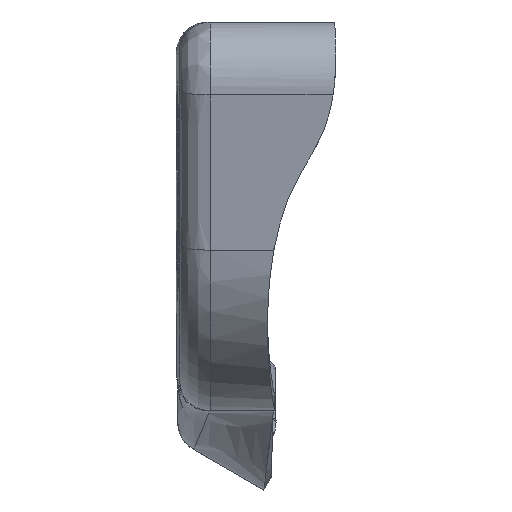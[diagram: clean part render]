
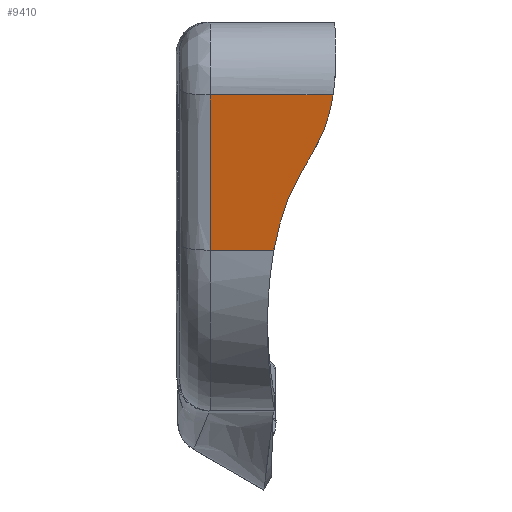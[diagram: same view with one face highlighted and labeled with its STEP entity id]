
A CAD part, left-side view. The second image highlights one B-rep face of the part: STEP entity #9410.
In plain terms, the highlighted free-form (B-spline) face has degree [5, 1] with [6, 2] control points.
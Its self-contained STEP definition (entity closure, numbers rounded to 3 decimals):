
#8377=CARTESIAN_POINT('Vertex',(647.041,-886.412,351.806)) ;
#8477=CARTESIAN_POINT('Vertex',(643.536,-902.227,371.758)) ;
#8714=CARTESIAN_POINT('Vertex',(643.523,-886.415,371.758)) ;
#9018=CARTESIAN_POINT('Vertex',(644.772,-899.808,364.733)) ;
#9029=CARTESIAN_POINT('Control Point',(643.535,-902.227,371.758)) ;
#9030=CARTESIAN_POINT('Control Point',(643.861,-901.966,369.91)) ;
#9031=CARTESIAN_POINT('Control Point',(644.181,-901.47,368.095)) ;
#9032=CARTESIAN_POINT('Control Point',(644.487,-900.744,366.355)) ;
#9033=CARTESIAN_POINT('Control Point',(644.772,-899.808,364.733)) ;
#9095=CARTESIAN_POINT('Vertex',(647.047,-894.593,351.806)) ;
#9099=CARTESIAN_POINT('Control Point',(647.047,-894.593,351.806)) ;
#9100=CARTESIAN_POINT('Control Point',(647.046,-892.956,351.806)) ;
#9101=CARTESIAN_POINT('Control Point',(647.045,-891.32,351.806)) ;
#9102=CARTESIAN_POINT('Control Point',(647.043,-889.684,351.806)) ;
#9103=CARTESIAN_POINT('Control Point',(647.042,-888.048,351.806)) ;
#9104=CARTESIAN_POINT('Control Point',(647.041,-886.412,351.806)) ;
#9169=CARTESIAN_POINT('Control Point',(643.523,-886.415,371.758)) ;
#9170=CARTESIAN_POINT('Control Point',(644.213,-886.414,367.847)) ;
#9171=CARTESIAN_POINT('Control Point',(644.902,-886.414,363.937)) ;
#9172=CARTESIAN_POINT('Control Point',(645.592,-886.413,360.026)) ;
#9173=CARTESIAN_POINT('Control Point',(646.295,-886.413,356.036)) ;
#9174=CARTESIAN_POINT('Control Point',(646.999,-886.412,352.045)) ;
#9175=CARTESIAN_POINT('Control Point',(647.013,-886.412,351.965)) ;
#9176=CARTESIAN_POINT('Control Point',(647.027,-886.412,351.886)) ;
#9177=CARTESIAN_POINT('Control Point',(647.041,-886.412,351.806)) ;
#9211=CARTESIAN_POINT('Control Point',(643.536,-902.227,371.758)) ;
#9212=CARTESIAN_POINT('Control Point',(643.533,-899.064,371.758)) ;
#9213=CARTESIAN_POINT('Control Point',(643.531,-895.902,371.758)) ;
#9214=CARTESIAN_POINT('Control Point',(643.528,-892.74,371.758)) ;
#9215=CARTESIAN_POINT('Control Point',(643.526,-889.577,371.758)) ;
#9216=CARTESIAN_POINT('Control Point',(643.523,-886.415,371.758)) ;
#9363=CARTESIAN_POINT('Vertex',(645.336,-897.961,361.529)) ;
#9367=CARTESIAN_POINT('Control Point',(644.772,-899.808,364.733)) ;
#9368=CARTESIAN_POINT('Control Point',(644.885,-899.439,364.092)) ;
#9369=CARTESIAN_POINT('Control Point',(644.997,-899.069,363.452)) ;
#9370=CARTESIAN_POINT('Control Point',(645.11,-898.7,362.811)) ;
#9371=CARTESIAN_POINT('Control Point',(645.223,-898.33,362.17)) ;
#9372=CARTESIAN_POINT('Control Point',(645.336,-897.961,361.529)) ;
#9382=CARTESIAN_POINT('Control Point',(643.542,-910.415,371.758)) ;
#9383=CARTESIAN_POINT('Control Point',(643.52,-882.415,371.758)) ;
#9384=CARTESIAN_POINT('Control Point',(644.245,-910.414,367.768)) ;
#9385=CARTESIAN_POINT('Control Point',(644.224,-882.414,367.768)) ;
#9386=CARTESIAN_POINT('Control Point',(644.949,-910.414,363.777)) ;
#9387=CARTESIAN_POINT('Control Point',(644.927,-882.414,363.777)) ;
#9388=CARTESIAN_POINT('Control Point',(645.652,-910.413,359.787)) ;
#9389=CARTESIAN_POINT('Control Point',(645.631,-882.413,359.787)) ;
#9390=CARTESIAN_POINT('Control Point',(646.356,-910.413,355.796)) ;
#9391=CARTESIAN_POINT('Control Point',(646.334,-882.413,355.796)) ;
#9392=CARTESIAN_POINT('Control Point',(647.059,-910.412,351.806)) ;
#9393=CARTESIAN_POINT('Control Point',(647.038,-882.412,351.806)) ;
#9395=CARTESIAN_POINT('Control Point',(645.336,-897.961,361.529)) ;
#9396=CARTESIAN_POINT('Control Point',(645.651,-896.929,359.738)) ;
#9397=CARTESIAN_POINT('Control Point',(645.985,-896.088,357.839)) ;
#9398=CARTESIAN_POINT('Control Point',(646.336,-895.447,355.843)) ;
#9399=CARTESIAN_POINT('Control Point',(646.689,-894.951,353.837)) ;
#9400=CARTESIAN_POINT('Control Point',(647.047,-894.593,351.806)) ;
#9034=EDGE_CURVE('',#8478,#9019,#9028,.T.) ;
#9105=EDGE_CURVE('',#9096,#8378,#9098,.T.) ;
#9178=EDGE_CURVE('',#8715,#8378,#9168,.T.) ;
#9217=EDGE_CURVE('',#8478,#8715,#9210,.T.) ;
#9373=EDGE_CURVE('',#9019,#9364,#9366,.T.) ;
#9401=EDGE_CURVE('',#9364,#9096,#9394,.T.) ;
#9403=ORIENTED_EDGE('',*,*,#9401,.F.) ;
#9404=ORIENTED_EDGE('',*,*,#9373,.F.) ;
#9405=ORIENTED_EDGE('',*,*,#9034,.F.) ;
#9406=ORIENTED_EDGE('',*,*,#9217,.T.) ;
#9407=ORIENTED_EDGE('',*,*,#9178,.T.) ;
#9408=ORIENTED_EDGE('',*,*,#9105,.F.) ;
#9410=ADVANCED_FACE('\X2\96F64EF651E04F554F53\X0\',(#9409),#9381,.F.) ;
#8378=VERTEX_POINT('',#8377) ;
#8478=VERTEX_POINT('',#8477) ;
#8715=VERTEX_POINT('',#8714) ;
#9019=VERTEX_POINT('',#9018) ;
#9096=VERTEX_POINT('',#9095) ;
#9364=VERTEX_POINT('',#9363) ;
#9028=B_SPLINE_CURVE_WITH_KNOTS('',4,(#9029,#9030,#9031,#9032,#9033),.UNSPECIFIED.,.F.,.U.,(5,5),(0.,13.141),.UNSPECIFIED.) ;
#9098=B_SPLINE_CURVE_WITH_KNOTS('',5,(#9099,#9100,#9101,#9102,#9103,#9104),.UNSPECIFIED.,.F.,.U.,(6,6),(15.82,24.),.UNSPECIFIED.) ;
#9168=B_SPLINE_CURVE_WITH_KNOTS('',5,(#9169,#9170,#9171,#9172,#9173,#9174,#9175,#9176,#9177),.UNSPECIFIED.,.F.,.U.,(6,3,6),(20.056,48.135,48.708),.UNSPECIFIED.) ;
#9210=B_SPLINE_CURVE_WITH_KNOTS('',5,(#9211,#9212,#9213,#9214,#9215,#9216),.UNSPECIFIED.,.F.,.U.,(6,6),(8.188,24.),.UNSPECIFIED.) ;
#9366=B_SPLINE_CURVE_WITH_KNOTS('',5,(#9367,#9368,#9369,#9370,#9371,#9372),.UNSPECIFIED.,.F.,.U.,(6,6),(0.,3.741),.UNSPECIFIED.) ;
#9394=B_SPLINE_CURVE_WITH_KNOTS('',5,(#9395,#9396,#9397,#9398,#9399,#9400),.UNSPECIFIED.,.F.,.U.,(6,6),(0.,18.146),.UNSPECIFIED.) ;
#9381=B_SPLINE_SURFACE_WITH_KNOTS('',5,1,((#9382,#9383),(#9384,#9385),(#9386,#9387),(#9388,#9389),(#9390,#9391),(#9392,#9393)),.UNSPECIFIED.,.F.,.F.,.U.,(6,6),(2,2),(0.,20.26),(0.,28.),.UNSPECIFIED.) ;
#9402=EDGE_LOOP('',(#9403,#9404,#9405,#9406,#9407,#9408)) ;
#9409=FACE_OUTER_BOUND('',#9402,.T.) ;
